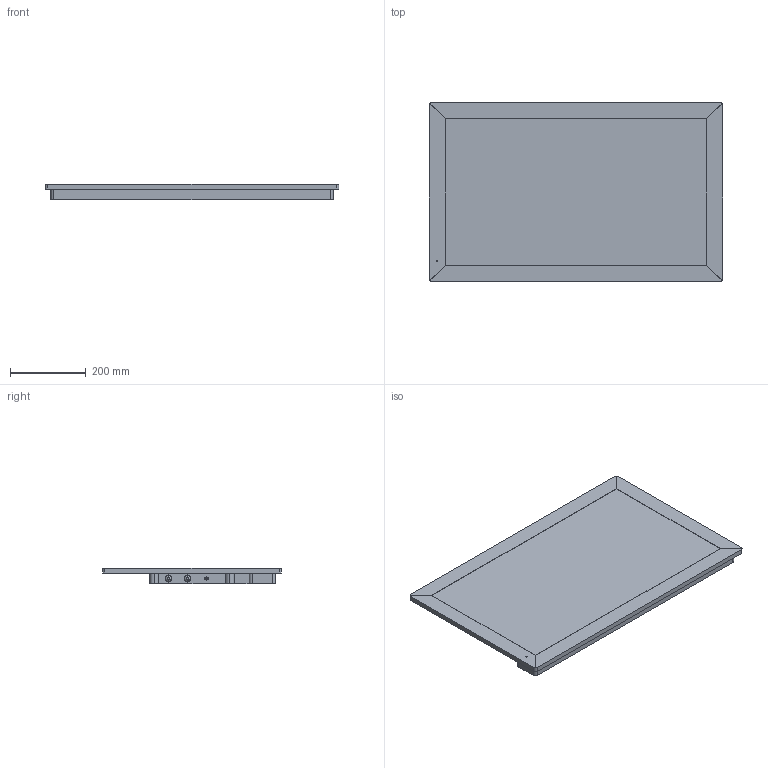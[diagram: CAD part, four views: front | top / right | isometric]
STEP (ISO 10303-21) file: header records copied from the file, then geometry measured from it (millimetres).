
FILE_DESCRIPTION (( 'STEP AP203' ), '1' );
FILE_NAME ('Monitor E-ink 32in Outdoor Master.STEP', '2021-03-15T21:34:04', ( '' ), ( '' ), 'SwSTEP 2.0', 'SolidWorks 2020', '' );
FILE_SCHEMA (( 'CONFIG_CONTROL_DESIGN' ));
Length unit declared in the file: millimetre
Products named in the file (1): Monitor E-ink 32in Outdoor Master
Bounding box: 773.2 x 470.8 x 41.8 mm (x, y, z)
Volume: 9580298.4 mm3; surface area: 834050.8 mm2
Topology: 1 solids, 1 shells, 293 faces, 654 edges, 434 vertices
Faces by surface type: cylinder 144, plane 143, torus 4, cone 2
Entity records: 8323 total; most frequent: DIRECTION 1548, CARTESIAN_POINT 1382, ORIENTED_EDGE 1308, EDGE_CURVE 654, AXIS2_PLACEMENT_3D 600, VERTEX_POINT 434, EDGE_LOOP 364, VECTOR 348
